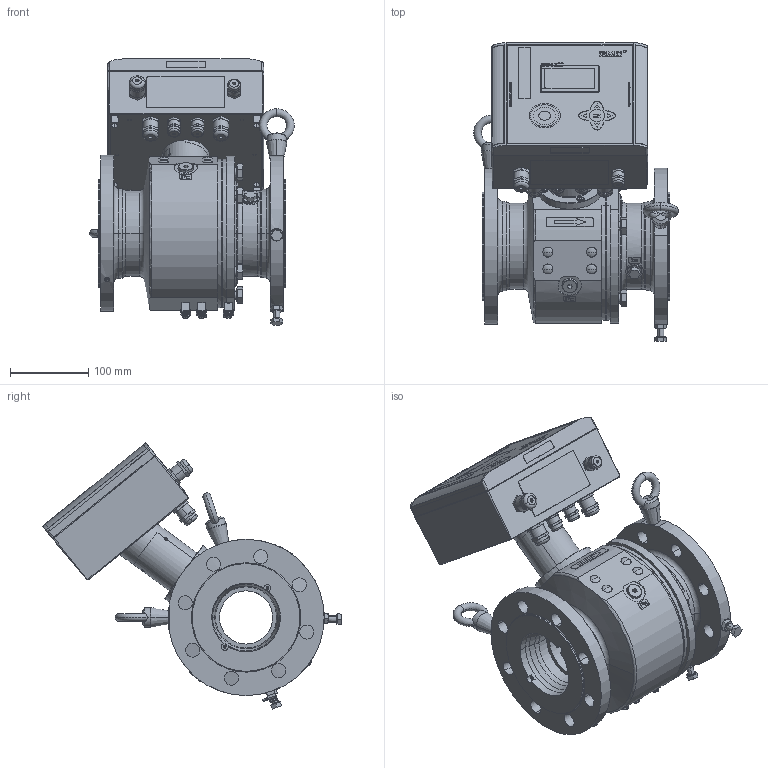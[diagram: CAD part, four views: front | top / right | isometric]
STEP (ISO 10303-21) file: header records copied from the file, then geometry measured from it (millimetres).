
FILE_DESCRIPTION((''),'2;1');
FILE_NAME('STANDARD_SW0001_LI_PN10','2023-09-11T07:11:45',('R85801'),(''),'CREO PARAMETRIC BY PTC INC, 2022281','CREO PARAMETRIC BY PTC INC, 2022281','');
FILE_SCHEMA(('AP242_MANAGED_MODEL_BASED_3D_ENGINEERING_MIM_LF { 1 0 10303 442 1 1 4 }'));
Length unit declared in the file: millimetre
Products named in the file (2): STANDARD_SW0001_LI_PN10; 10038_S235JRG2
Bounding box: 261.97 x 382.23 x 340.69 mm (x, y, z)
Volume: 4323565.4 mm3; surface area: 775046.6 mm2
Topology: 12 solids, 22 shells, 3914 faces, 9899 edges, 6284 vertices
Faces by surface type: plane 1885, cylinder 677, extrusion 632, cone 364, torus 280, sphere 40, bspline 36
Entity records: 186546 total; most frequent: CARTESIAN_POINT 30224, ORIENTED_EDGE 19670, DIRECTION 17817, PRESENTATION_STYLE_ASSIGNMENT 14284, STYLED_ITEM 10484, CURVE_STYLE 10471, EDGE_CURVE 9835, VECTOR 6507
